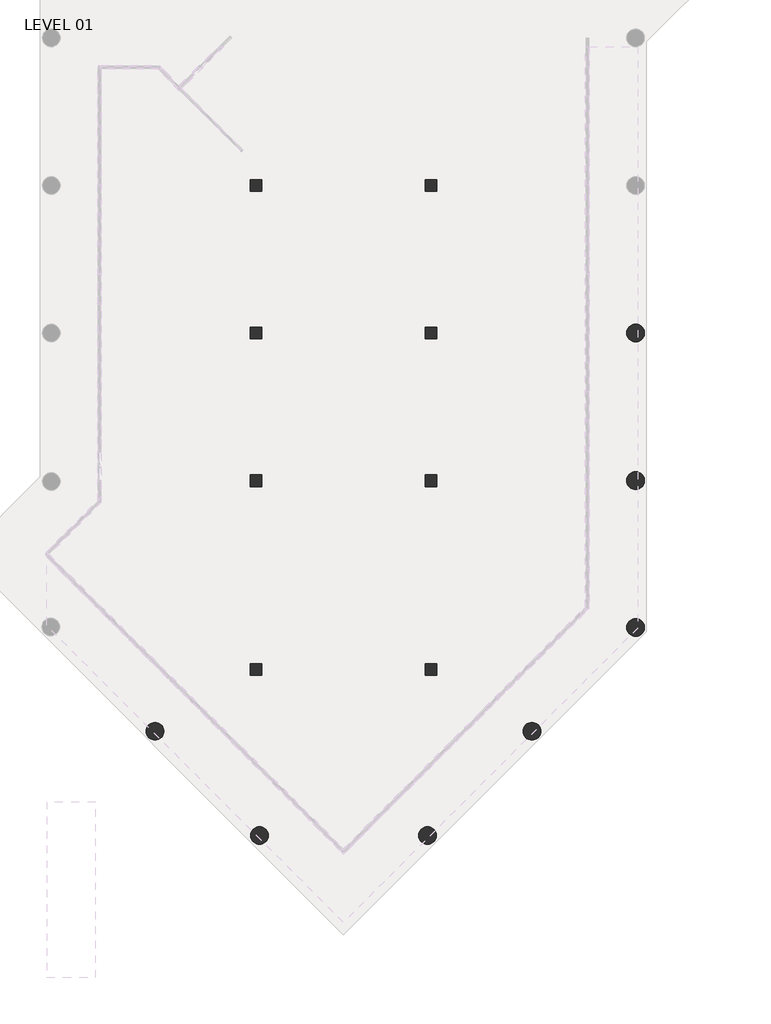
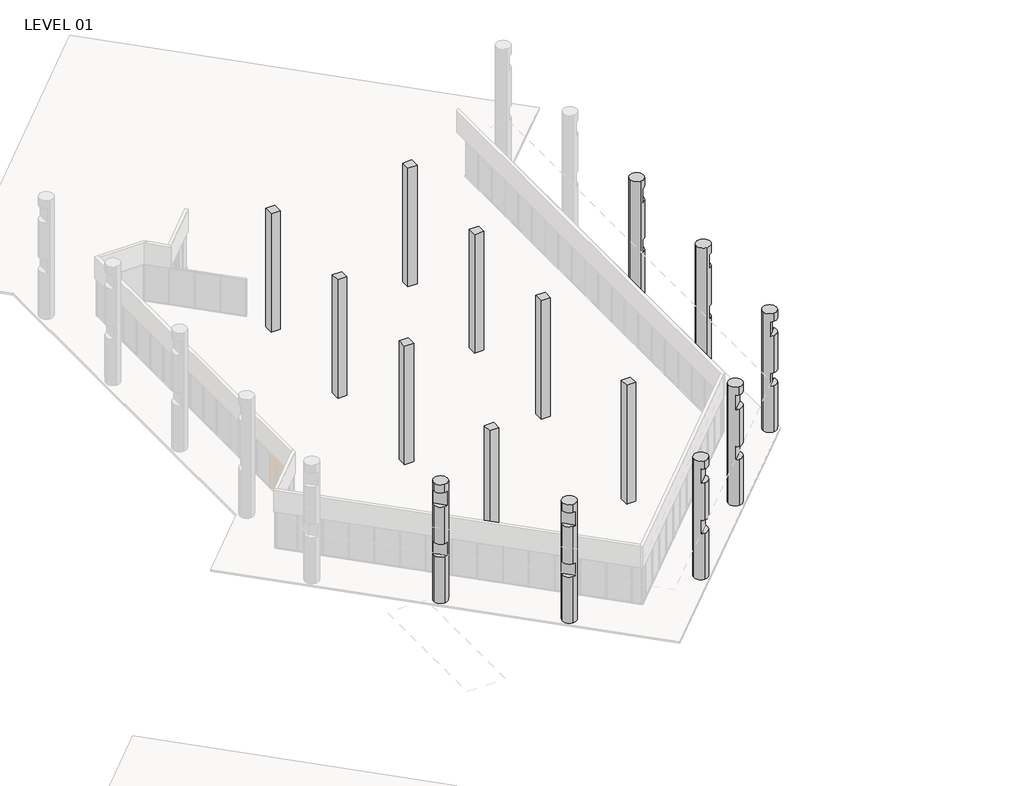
# One storey, part 21 of 24: 15 columns.
"""IFC4 building model written with IfcOpenShell, lengths in millimetres."""

from ifc_helpers import new_model, si_unit, frame, origin, place, context, project, spatial, circle_curve, transform, mapped, element, save
from ifc_brep_helpers import plane_surface, cylinder_surface, advanced_brep
from components import column_f8a5f9a6

model = new_model("IFC4")

# Units and contexts
model_context = context("Model", 3, world=origin())
ifc_project = project(units=[si_unit("LENGTHUNIT", "METRE", prefix="MILLI")], contexts=[model_context])

# Site, building, storey
site = spatial("IfcSite", under=ifc_project)
building = spatial("IfcBuilding", under=site)
storey = spatial("IfcBuildingStorey", under=building, Name="LEVEL 01", Elevation=0.0)

# Columns
placement = place(None, origin())
column_shape = column_f8a5f9a6(model_context)
element("IfcColumn", 1, ObjectType="Rectangular Column : 24\" x 24\"", at=placement, inside=storey, context=model_context, shape_type="MappedRepresentation", body=[
    mapped(column_shape, transform((81367.8847164, 36334.3675885, 0.0), x_axis=(0.0, -1.0, 0.0), y_axis=(1.0, 0.0, 0.0), z_axis=(0.0, 0.0, 1.0))),
])
element("IfcColumn", 2, ObjectType="Rectangular Column : 24\" x 24\"", at=placement, inside=storey, context=model_context, shape_type="MappedRepresentation", body=[
    mapped(column_shape, transform((72331.8347164, 36334.3675885, 0.0), x_axis=(0.0, -1.0, 0.0), y_axis=(1.0, 0.0, 0.0), z_axis=(0.0, 0.0, 1.0))),
])
element("IfcColumn", 3, ObjectType="Rectangular Column : 24\" x 24\"", at=placement, inside=storey, context=model_context, shape_type="MappedRepresentation", body=[
    mapped(column_shape, transform((81367.8847164, 46087.9675885, 0.0), x_axis=(0.0, -1.0, 0.0), y_axis=(1.0, 0.0, 0.0), z_axis=(0.0, 0.0, 1.0))),
])
element("IfcColumn", 4, ObjectType="Rectangular Column : 24\" x 24\"", at=placement, inside=storey, context=model_context, shape_type="MappedRepresentation", body=[
    mapped(column_shape, transform((81367.8847164, 53707.9675885, 0.0), x_axis=(0.0, -1.0, 0.0), y_axis=(1.0, 0.0, 0.0), z_axis=(0.0, 0.0, 1.0))),
])
element("IfcColumn", 5, ObjectType="Rectangular Column : 24\" x 24\"", at=placement, inside=storey, context=model_context, shape_type="MappedRepresentation", body=[
    mapped(column_shape, transform((81367.8847164, 61327.9675885, 0.0), x_axis=(0.0, -1.0, 0.0), y_axis=(1.0, 0.0, 0.0), z_axis=(0.0, 0.0, 1.0))),
])
element("IfcColumn", 6, ObjectType="Rectangular Column : 24\" x 24\"", at=placement, inside=storey, context=model_context, shape_type="MappedRepresentation", body=[
    mapped(column_shape, transform((72331.8347164, 61327.9675885, 0.0), x_axis=(0.0, -1.0, 0.0), y_axis=(1.0, 0.0, 0.0), z_axis=(0.0, 0.0, 1.0))),
])
element("IfcColumn", 7, ObjectType="Rectangular Column : 24\" x 24\"", at=placement, inside=storey, context=model_context, shape_type="MappedRepresentation", body=[
    mapped(column_shape, transform((72331.8347164, 53707.9675885, 0.0), x_axis=(0.0, -1.0, 0.0), y_axis=(1.0, 0.0, 0.0), z_axis=(0.0, 0.0, 1.0))),
])
element("IfcColumn", 8, ObjectType="Rectangular Column : 24\" x 24\"", at=placement, inside=storey, context=model_context, shape_type="MappedRepresentation", body=[
    mapped(column_shape, transform((72331.8347164, 46087.9675885, 0.0), x_axis=(0.0, -1.0, 0.0), y_axis=(1.0, 0.0, 0.0), z_axis=(0.0, 0.0, 1.0))),
])
element("IfcColumn", 9, ObjectType="Round Column : 36\" Diameter", at=placement, inside=storey, context=model_context, shape_type="AdvancedBrep", body=[
    advanced_brep(
    [(67123.6517654, 33609.0346375, 0.0), (67123.6517654, 32694.6346375, 0.0), (66666.4517654, 33151.8346375, 0.0), (67123.6517654, 33609.0346375, 8280.4), (67123.6517654, 32694.6346375, 8280.4), (67123.6517654, 32694.6346375, 7721.6), (67320.6886919, 32739.271564, 7721.6), (67320.6886919, 32739.271564, 6731.0), (67123.6517654, 32694.6346375, 6731.0), (67123.6517654, 32694.6346375, 4140.2), (67320.6886919, 32739.271564, 4140.2), (67320.6886919, 32739.271564, 3225.8), (67123.6517654, 32694.6346375, 3225.8), (66666.4517654, 33151.8346375, 3225.8), (66711.0886919, 33348.871564, 3225.8), (66711.0886919, 33348.871564, 4140.2), (66666.4517654, 33151.8346375, 4140.2), (66666.4517654, 33151.8346375, 6731.0), (66711.0886919, 33348.871564, 6731.0), (66711.0886919, 33348.871564, 7721.6), (66666.4517654, 33151.8346375, 7721.6), (66666.4517654, 33151.8346375, 8280.4), (66800.362545, 32828.5454171, 3225.8), (66800.362545, 32828.5454171, 6731.0), (66800.362545, 32828.5454171, 7721.6), (66800.362545, 32828.5454171, 4140.2)],
    [
        (0, 1, circle_curve(frame((67123.6517654, 33151.8346375, 0.0), z_axis=(0.0, 0.0, -1.0), x_axis=(0.0, -1.0, 0.0)), 457.2)),
        (1, 2, circle_curve(frame((67123.6517654, 33151.8346375, 0.0), z_axis=(0.0, 0.0, -1.0), x_axis=(0.0, -1.0, 0.0)), 457.2)),
        (2, 0, circle_curve(frame((67123.6517654, 33151.8346375, 0.0), z_axis=(0.0, 0.0, -1.0), x_axis=(0.0, -1.0, 0.0)), 457.2)),
        (0, 3),
        (3, 4, circle_curve(frame((67123.6517654, 33151.8346375, 8280.4), z_axis=(0.0, 0.0, -1.0), x_axis=(0.0, -1.0, 0.0)), 457.2)),
        (4, 5),
        (5, 6, circle_curve(frame((67123.6517654, 33151.8346375, 7721.6), z_axis=(0.0, 0.0, 1.0), x_axis=(0.0, -1.0, 0.0)), 457.2)),
        (6, 7),
        (7, 8, circle_curve(frame((67123.6517654, 33151.8346375, 6731.0), z_axis=(0.0, 0.0, -1.0), x_axis=(0.0, -1.0, 0.0)), 457.2)),
        (8, 9),
        (9, 10, circle_curve(frame((67123.6517654, 33151.8346375, 4140.2), z_axis=(0.0, 0.0, 1.0), x_axis=(0.0, -1.0, 0.0)), 457.2)),
        (10, 11),
        (11, 12, circle_curve(frame((67123.6517654, 33151.8346375, 3225.8), z_axis=(0.0, 0.0, -1.0), x_axis=(0.0, -1.0, 0.0)), 457.2)),
        (12, 1),
        (2, 13),
        (13, 14, circle_curve(frame((67123.6517654, 33151.8346375, 3225.8), z_axis=(0.0, 0.0, -1.0), x_axis=(0.0, -1.0, 0.0)), 457.2)),
        (14, 15),
        (15, 16, circle_curve(frame((67123.6517654, 33151.8346375, 4140.2), z_axis=(0.0, 0.0, 1.0), x_axis=(0.0, -1.0, 0.0)), 457.2)),
        (16, 17),
        (17, 18, circle_curve(frame((67123.6517654, 33151.8346375, 6731.0), z_axis=(0.0, 0.0, -1.0), x_axis=(0.0, -1.0, 0.0)), 457.2)),
        (18, 19),
        (19, 20, circle_curve(frame((67123.6517654, 33151.8346375, 7721.6), z_axis=(0.0, 0.0, 1.0), x_axis=(0.0, -1.0, 0.0)), 457.2)),
        (20, 21),
        (21, 3, circle_curve(frame((67123.6517654, 33151.8346375, 8280.4), z_axis=(0.0, 0.0, -1.0), x_axis=(0.0, -1.0, 0.0)), 457.2)),
        (12, 22, circle_curve(frame((67123.6517654, 33151.8346375, 3225.8), z_axis=(0.0, 0.0, -1.0), x_axis=(0.0, -1.0, 0.0)), 457.2)),
        (22, 13, circle_curve(frame((67123.6517654, 33151.8346375, 3225.8), z_axis=(0.0, 0.0, -1.0), x_axis=(0.0, -1.0, 0.0)), 457.2)),
        (21, 4, circle_curve(frame((67123.6517654, 33151.8346375, 8280.4), z_axis=(0.0, 0.0, 1.0), x_axis=(0.0, -1.0, 0.0)), 457.2)),
        (18, 7),
        (6, 19),
        (17, 23, circle_curve(frame((67123.6517654, 33151.8346375, 6731.0), z_axis=(0.0, 0.0, 1.0), x_axis=(0.0, -1.0, 0.0)), 457.2)),
        (23, 8, circle_curve(frame((67123.6517654, 33151.8346375, 6731.0), z_axis=(0.0, 0.0, 1.0), x_axis=(0.0, -1.0, 0.0)), 457.2)),
        (5, 24, circle_curve(frame((67123.6517654, 33151.8346375, 7721.6), z_axis=(0.0, 0.0, -1.0), x_axis=(0.0, -1.0, 0.0)), 457.2)),
        (24, 20, circle_curve(frame((67123.6517654, 33151.8346375, 7721.6), z_axis=(0.0, 0.0, -1.0), x_axis=(0.0, -1.0, 0.0)), 457.2)),
        (14, 11),
        (10, 15),
        (9, 25, circle_curve(frame((67123.6517654, 33151.8346375, 4140.2), z_axis=(0.0, 0.0, -1.0), x_axis=(0.0, -1.0, 0.0)), 457.2)),
        (25, 16, circle_curve(frame((67123.6517654, 33151.8346375, 4140.2), z_axis=(0.0, 0.0, -1.0), x_axis=(0.0, -1.0, 0.0)), 457.2)),
    ],
    [
        plane_surface(frame((67123.6517654, 32694.6346375, 0.0), z_axis=(0.0, 0.0, -1.0), x_axis=(1.0, 0.0, 0.0))),
        cylinder_surface(frame((67123.6517654, 33151.8346375, 0.0), z_axis=(0.0, 0.0, 1.0), x_axis=(0.0, -1.0, 0.0)), 457.2),
        plane_surface(frame((67123.6517654, 32694.6346375, 8280.4), z_axis=(0.0, 0.0, 1.0), x_axis=(-1.0, 0.0, 0.0))),
        plane_surface(frame((55681.9798614, 44377.9803946, 6731.0), z_axis=(-0.7071067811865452, -0.7071067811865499, 0.0), x_axis=(-0.7071067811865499, 0.7071067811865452, 0.0))),
        plane_surface(frame((57458.7034471, 42170.2045151, 6731.0), z_axis=(0.0, 0.0, 1.0000000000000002), x_axis=(0.7071067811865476, 0.7071067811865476, 0.0))),
        plane_surface(frame((76742.0966429, 22886.8113192, 7721.6), z_axis=(0.0, 0.0, -1.0000000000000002), x_axis=(0.7071067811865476, 0.7071067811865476, 0.0))),
        plane_surface(frame((57566.4665205, 42493.4937354, 3225.8), z_axis=(-0.7071067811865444, -0.7071067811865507, 0.0), x_axis=(-0.7071067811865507, 0.7071067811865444, 0.0))),
        plane_surface(frame((61196.8613981, 38432.046564, 3225.8), z_axis=(0.0, 0.0, 1.0000000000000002), x_axis=(0.7071067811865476, 0.7071067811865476, 0.0))),
        plane_surface(frame((76742.0966429, 22886.8113192, 4140.2), z_axis=(0.0, 0.0, -1.0000000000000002), x_axis=(0.7071067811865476, 0.7071067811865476, 0.0))),
    ],
    [
        (0, [[1, 2, 3]]),
        (1, [[-1, 4, 5, 6, 7, 8, 9, 10, 11, 12, 13, 14]]),
        (1, [[-3, 15, 16, 17, 18, 19, 20, 21, 22, 23, 24, -4]]),
        (1, [[-2, -14, 25, 26, -15]]),
        (2, [[-5, -24, 27]]),
        (3, [[28, -8, 29, -21]]),
        (4, [[-9, -28, -20, 30, 31]]),
        (5, [[-7, 32, 33, -22, -29]]),
        (1, [[-27, -23, -33, -32, -6]]),
        (6, [[34, -12, 35, -17]]),
        (7, [[-34, -16, -26, -25, -13]]),
        (8, [[-35, -11, 36, 37, -18]]),
        (1, [[-30, -19, -37, -36, -10, -31]]),
    ],
),
])
element("IfcColumn", 10, ObjectType="Round Column : 36\" Diameter", at=placement, inside=storey, context=model_context, shape_type="AdvancedBrep", body=[
    advanced_brep(
    [(72511.6267654, 28221.0596375, 0.0), (72511.6267654, 27306.6596375, 0.0), (72054.4267654, 27763.8596375, 0.0), (72511.6267654, 28221.0596375, 8280.4), (72511.6267654, 27306.6596375, 8280.4), (72511.6267654, 27306.6596375, 7721.6), (72708.6636919, 27351.296564, 7721.6), (72708.6636919, 27351.296564, 6731.0), (72511.6267654, 27306.6596375, 6731.0), (72511.6267654, 27306.6596375, 4140.2), (72708.6636919, 27351.296564, 4140.2), (72708.6636919, 27351.296564, 3225.8), (72511.6267654, 27306.6596375, 3225.8), (72054.4267654, 27763.8596375, 3225.8), (72099.0636919, 27960.896564, 3225.8), (72099.0636919, 27960.896564, 4140.2), (72054.4267654, 27763.8596375, 4140.2), (72054.4267654, 27763.8596375, 6731.0), (72099.0636919, 27960.896564, 6731.0), (72099.0636919, 27960.896564, 7721.6), (72054.4267654, 27763.8596375, 7721.6), (72054.4267654, 27763.8596375, 8280.4), (72188.337545, 27440.5704171, 3225.8), (72188.337545, 27440.5704171, 6731.0), (72188.337545, 27440.5704171, 7721.6), (72188.337545, 27440.5704171, 4140.2)],
    [
        (0, 1, circle_curve(frame((72511.6267654, 27763.8596375, 0.0), z_axis=(0.0, 0.0, -1.0), x_axis=(0.0, -1.0, 0.0)), 457.2)),
        (1, 2, circle_curve(frame((72511.6267654, 27763.8596375, 0.0), z_axis=(0.0, 0.0, -1.0), x_axis=(0.0, -1.0, 0.0)), 457.2)),
        (2, 0, circle_curve(frame((72511.6267654, 27763.8596375, 0.0), z_axis=(0.0, 0.0, -1.0), x_axis=(0.0, -1.0, 0.0)), 457.2)),
        (0, 3),
        (3, 4, circle_curve(frame((72511.6267654, 27763.8596375, 8280.4), z_axis=(0.0, 0.0, -1.0), x_axis=(0.0, -1.0, 0.0)), 457.2)),
        (4, 5),
        (5, 6, circle_curve(frame((72511.6267654, 27763.8596375, 7721.6), z_axis=(0.0, 0.0, 1.0), x_axis=(0.0, -1.0, 0.0)), 457.2)),
        (6, 7),
        (7, 8, circle_curve(frame((72511.6267654, 27763.8596375, 6731.0), z_axis=(0.0, 0.0, -1.0), x_axis=(0.0, -1.0, 0.0)), 457.2)),
        (8, 9),
        (9, 10, circle_curve(frame((72511.6267654, 27763.8596375, 4140.2), z_axis=(0.0, 0.0, 1.0), x_axis=(0.0, -1.0, 0.0)), 457.2)),
        (10, 11),
        (11, 12, circle_curve(frame((72511.6267654, 27763.8596375, 3225.8), z_axis=(0.0, 0.0, -1.0), x_axis=(0.0, -1.0, 0.0)), 457.2)),
        (12, 1),
        (2, 13),
        (13, 14, circle_curve(frame((72511.6267654, 27763.8596375, 3225.8), z_axis=(0.0, 0.0, -1.0), x_axis=(0.0, -1.0, 0.0)), 457.2)),
        (14, 15),
        (15, 16, circle_curve(frame((72511.6267654, 27763.8596375, 4140.2), z_axis=(0.0, 0.0, 1.0), x_axis=(0.0, -1.0, 0.0)), 457.2)),
        (16, 17),
        (17, 18, circle_curve(frame((72511.6267654, 27763.8596375, 6731.0), z_axis=(0.0, 0.0, -1.0), x_axis=(0.0, -1.0, 0.0)), 457.2)),
        (18, 19),
        (19, 20, circle_curve(frame((72511.6267654, 27763.8596375, 7721.6), z_axis=(0.0, 0.0, 1.0), x_axis=(0.0, -1.0, 0.0)), 457.2)),
        (20, 21),
        (21, 3, circle_curve(frame((72511.6267654, 27763.8596375, 8280.4), z_axis=(0.0, 0.0, -1.0), x_axis=(0.0, -1.0, 0.0)), 457.2)),
        (12, 22, circle_curve(frame((72511.6267654, 27763.8596375, 3225.8), z_axis=(0.0, 0.0, -1.0), x_axis=(0.0, -1.0, 0.0)), 457.2)),
        (22, 13, circle_curve(frame((72511.6267654, 27763.8596375, 3225.8), z_axis=(0.0, 0.0, -1.0), x_axis=(0.0, -1.0, 0.0)), 457.2)),
        (21, 4, circle_curve(frame((72511.6267654, 27763.8596375, 8280.4), z_axis=(0.0, 0.0, 1.0), x_axis=(0.0, -1.0, 0.0)), 457.2)),
        (18, 7),
        (6, 19),
        (17, 23, circle_curve(frame((72511.6267654, 27763.8596375, 6731.0), z_axis=(0.0, 0.0, 1.0), x_axis=(0.0, -1.0, 0.0)), 457.2)),
        (23, 8, circle_curve(frame((72511.6267654, 27763.8596375, 6731.0), z_axis=(0.0, 0.0, 1.0), x_axis=(0.0, -1.0, 0.0)), 457.2)),
        (5, 24, circle_curve(frame((72511.6267654, 27763.8596375, 7721.6), z_axis=(0.0, 0.0, -1.0), x_axis=(0.0, -1.0, 0.0)), 457.2)),
        (24, 20, circle_curve(frame((72511.6267654, 27763.8596375, 7721.6), z_axis=(0.0, 0.0, -1.0), x_axis=(0.0, -1.0, 0.0)), 457.2)),
        (14, 11),
        (10, 15),
        (9, 25, circle_curve(frame((72511.6267654, 27763.8596375, 4140.2), z_axis=(0.0, 0.0, -1.0), x_axis=(0.0, -1.0, 0.0)), 457.2)),
        (25, 16, circle_curve(frame((72511.6267654, 27763.8596375, 4140.2), z_axis=(0.0, 0.0, -1.0), x_axis=(0.0, -1.0, 0.0)), 457.2)),
    ],
    [
        plane_surface(frame((72511.6267654, 27306.6596375, 0.0), z_axis=(0.0, 0.0, -1.0), x_axis=(1.0, 0.0, 0.0))),
        cylinder_surface(frame((72511.6267654, 27763.8596375, 0.0), z_axis=(0.0, 0.0, 1.0), x_axis=(0.0, -1.0, 0.0)), 457.2),
        plane_surface(frame((72511.6267654, 27306.6596375, 8280.4), z_axis=(0.0, 0.0, 1.0), x_axis=(-1.0, 0.0, 0.0))),
        plane_surface(frame((55681.9798614, 44377.9803946, 6731.0), z_axis=(-0.7071067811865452, -0.7071067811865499, 0.0), x_axis=(-0.7071067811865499, 0.7071067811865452, 0.0))),
        plane_surface(frame((57458.7034471, 42170.2045151, 6731.0), z_axis=(0.0, 0.0, 1.0000000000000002), x_axis=(0.7071067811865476, 0.7071067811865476, 0.0))),
        plane_surface(frame((76742.0966429, 22886.8113192, 7721.6), z_axis=(0.0, 0.0, -1.0000000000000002), x_axis=(0.7071067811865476, 0.7071067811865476, 0.0))),
        plane_surface(frame((57566.4665205, 42493.4937354, 3225.8), z_axis=(-0.7071067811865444, -0.7071067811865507, 0.0), x_axis=(-0.7071067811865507, 0.7071067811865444, 0.0))),
        plane_surface(frame((61196.8613981, 38432.046564, 3225.8), z_axis=(0.0, 0.0, 1.0000000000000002), x_axis=(0.7071067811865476, 0.7071067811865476, 0.0))),
        plane_surface(frame((76742.0966429, 22886.8113192, 4140.2), z_axis=(0.0, 0.0, -1.0000000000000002), x_axis=(0.7071067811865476, 0.7071067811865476, 0.0))),
    ],
    [
        (0, [[1, 2, 3]]),
        (1, [[-1, 4, 5, 6, 7, 8, 9, 10, 11, 12, 13, 14]]),
        (1, [[-3, 15, 16, 17, 18, 19, 20, 21, 22, 23, 24, -4]]),
        (1, [[-2, -14, 25, 26, -15]]),
        (2, [[-5, -24, 27]]),
        (3, [[28, -8, 29, -21]]),
        (4, [[-9, -28, -20, 30, 31]]),
        (5, [[-7, 32, 33, -22, -29]]),
        (1, [[-27, -23, -33, -32, -6]]),
        (6, [[34, -12, 35, -17]]),
        (7, [[-34, -16, -26, -25, -13]]),
        (8, [[-35, -11, 36, 37, -18]]),
        (1, [[-30, -19, -37, -36, -10, -31]]),
    ],
),
])
element("IfcColumn", 11, ObjectType="Round Column : 36\" Diameter", at=placement, inside=storey, context=model_context, shape_type="AdvancedBrep", body=[
    advanced_brep(
    [(81188.0926674, 28221.0596375, 0.0), (81188.0926674, 27306.6596375, 0.0), (80730.8926674, 27763.8596375, 0.0), (81188.0926674, 28221.0596375, 8280.4), (81188.0926674, 27306.6596375, 8280.4), (81188.0926674, 27306.6596375, 7721.6), (81511.3818878, 27440.5704171, 7721.6), (81600.6557409, 27960.896564, 7721.6), (81600.6557409, 27960.896564, 6731.0), (81511.3818878, 27440.5704171, 6731.0), (81188.0926674, 27306.6596375, 6731.0), (81188.0926674, 27306.6596375, 4140.2), (81511.3818878, 27440.5704171, 4140.2), (81600.6557409, 27960.896564, 4140.2), (81600.6557409, 27960.896564, 3225.8), (81511.3818878, 27440.5704171, 3225.8), (81188.0926674, 27306.6596375, 3225.8), (80730.8926674, 27763.8596375, 8280.4), (80991.0557409, 27351.296564, 3225.8), (80991.0557409, 27351.296564, 4140.2), (80991.0557409, 27351.296564, 6731.0), (80991.0557409, 27351.296564, 7721.6)],
    [
        (0, 1, circle_curve(frame((81188.0926674, 27763.8596375, 0.0), z_axis=(0.0, 0.0, -1.0), x_axis=(0.0, -1.0, 0.0)), 457.2)),
        (1, 2, circle_curve(frame((81188.0926674, 27763.8596375, 0.0), z_axis=(0.0, 0.0, -1.0), x_axis=(0.0, -1.0, 0.0)), 457.2)),
        (2, 0, circle_curve(frame((81188.0926674, 27763.8596375, 0.0), z_axis=(0.0, 0.0, -1.0), x_axis=(0.0, -1.0, 0.0)), 457.2)),
        (0, 3),
        (3, 4, circle_curve(frame((81188.0926674, 27763.8596375, 8280.4), z_axis=(0.0, 0.0, -1.0), x_axis=(0.0, -1.0, 0.0)), 457.2)),
        (4, 5),
        (5, 6, circle_curve(frame((81188.0926674, 27763.8596375, 7721.6), z_axis=(0.0, 0.0, 1.0), x_axis=(0.0, -1.0, 0.0)), 457.2)),
        (6, 7, circle_curve(frame((81188.0926674, 27763.8596375, 7721.6), z_axis=(0.0, 0.0, 1.0), x_axis=(0.0, -1.0, 0.0)), 457.2)),
        (7, 8),
        (8, 9, circle_curve(frame((81188.0926674, 27763.8596375, 6731.0), z_axis=(0.0, 0.0, -1.0), x_axis=(0.0, -1.0, 0.0)), 457.2)),
        (9, 10, circle_curve(frame((81188.0926674, 27763.8596375, 6731.0), z_axis=(0.0, 0.0, -1.0), x_axis=(0.0, -1.0, 0.0)), 457.2)),
        (10, 11),
        (11, 12, circle_curve(frame((81188.0926674, 27763.8596375, 4140.2), z_axis=(0.0, 0.0, 1.0), x_axis=(0.0, -1.0, 0.0)), 457.2)),
        (12, 13, circle_curve(frame((81188.0926674, 27763.8596375, 4140.2), z_axis=(0.0, 0.0, 1.0), x_axis=(0.0, -1.0, 0.0)), 457.2)),
        (13, 14),
        (14, 15, circle_curve(frame((81188.0926674, 27763.8596375, 3225.8), z_axis=(0.0, 0.0, -1.0), x_axis=(0.0, -1.0, 0.0)), 457.2)),
        (15, 16, circle_curve(frame((81188.0926674, 27763.8596375, 3225.8), z_axis=(0.0, 0.0, -1.0), x_axis=(0.0, -1.0, 0.0)), 457.2)),
        (16, 1),
        (2, 17),
        (17, 3, circle_curve(frame((81188.0926674, 27763.8596375, 8280.4), z_axis=(0.0, 0.0, -1.0), x_axis=(0.0, -1.0, 0.0)), 457.2)),
        (16, 18, circle_curve(frame((81188.0926674, 27763.8596375, 3225.8), z_axis=(0.0, 0.0, -1.0), x_axis=(0.0, -1.0, 0.0)), 457.2)),
        (18, 19),
        (19, 11, circle_curve(frame((81188.0926674, 27763.8596375, 4140.2), z_axis=(0.0, 0.0, 1.0), x_axis=(0.0, -1.0, 0.0)), 457.2)),
        (10, 20, circle_curve(frame((81188.0926674, 27763.8596375, 6731.0), z_axis=(0.0, 0.0, -1.0), x_axis=(0.0, -1.0, 0.0)), 457.2)),
        (20, 21),
        (21, 5, circle_curve(frame((81188.0926674, 27763.8596375, 7721.6), z_axis=(0.0, 0.0, 1.0), x_axis=(0.0, -1.0, 0.0)), 457.2)),
        (4, 17, circle_curve(frame((81188.0926674, 27763.8596375, 8280.4), z_axis=(0.0, 0.0, -1.0), x_axis=(0.0, -1.0, 0.0)), 457.2)),
        (13, 19),
        (18, 14),
        (20, 8),
        (7, 21),
    ],
    [
        plane_surface(frame((81188.0926674, 27306.6596375, 0.0), z_axis=(0.0, 0.0, -1.0), x_axis=(1.0, 0.0, 0.0))),
        cylinder_surface(frame((81188.0926674, 27763.8596375, 0.0), z_axis=(0.0, 0.0, 1.0), x_axis=(0.0, -1.0, 0.0)), 457.2),
        plane_surface(frame((81188.0926674, 27306.6596375, 8280.4), z_axis=(0.0, 0.0, 1.0), x_axis=(-1.0, 0.0, 0.0))),
        plane_surface(frame((76562.4915205, 22922.7323437, 3225.8), z_axis=(0.7071067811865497, -0.7071067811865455, 0.0), x_axis=(-0.7071067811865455, -0.7071067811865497, 0.0))),
        plane_surface(frame((76957.6227899, 22886.8113192, 3225.8), z_axis=(0.0, 0.0, 1.0000000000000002), x_axis=(-0.7071067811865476, 0.7071067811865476, 0.0))),
        plane_surface(frame((92346.8477899, 38276.0363192, 4140.2), z_axis=(0.0, 0.0, -1.0), x_axis=(-0.7071067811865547, 0.7071067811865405, 0.0))),
        plane_surface(frame((76562.4915205, 22922.7323437, 6731.0), z_axis=(0.7071067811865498, -0.7071067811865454, 0.0), x_axis=(-0.7071067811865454, -0.7071067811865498, 0.0))),
        plane_surface(frame((76957.6227899, 22886.8113192, 6731.0), z_axis=(0.0, 0.0, 1.0), x_axis=(-0.7071067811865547, 0.7071067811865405, 0.0))),
        plane_surface(frame((92346.8477899, 38276.0363192, 7721.6), z_axis=(0.0, 0.0, -1.0000000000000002), x_axis=(-0.7071067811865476, 0.7071067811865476, 0.0))),
    ],
    [
        (0, [[1, 2, 3]]),
        (1, [[-1, 4, 5, 6, 7, 8, 9, 10, 11, 12, 13, 14, 15, 16, 17, 18]]),
        (1, [[-3, 19, 20, -4]]),
        (1, [[-2, -18, 21, 22, 23, -12, 24, 25, 26, -6, 27, -19]]),
        (2, [[-5, -20, -27]]),
        (3, [[-15, 28, -22, 29]]),
        (4, [[-17, -16, -29, -21]]),
        (5, [[-13, -23, -28, -14]]),
        (6, [[30, -9, 31, -25]]),
        (7, [[-30, -24, -11, -10]]),
        (8, [[-31, -8, -7, -26]]),
    ],
),
])
element("IfcColumn", 12, ObjectType="Round Column : 36\" Diameter", at=placement, inside=storey, context=model_context, shape_type="AdvancedBrep", body=[
    advanced_brep(
    [(86576.0676674, 33609.0346375, 0.0), (86576.0676674, 32694.6346375, 0.0), (86118.8676674, 33151.8346375, 0.0), (86576.0676674, 33609.0346375, 8280.4), (86576.0676674, 32694.6346375, 8280.4), (86576.0676674, 32694.6346375, 7721.6), (86899.3568878, 32828.5454171, 7721.6), (86988.6307409, 33348.871564, 7721.6), (86988.6307409, 33348.871564, 6731.0), (86899.3568878, 32828.5454171, 6731.0), (86576.0676674, 32694.6346375, 6731.0), (86576.0676674, 32694.6346375, 4140.2), (86899.3568878, 32828.5454171, 4140.2), (86988.6307409, 33348.871564, 4140.2), (86988.6307409, 33348.871564, 3225.8), (86899.3568878, 32828.5454171, 3225.8), (86576.0676674, 32694.6346375, 3225.8), (86118.8676674, 33151.8346375, 8280.4), (86379.0307409, 32739.271564, 3225.8), (86379.0307409, 32739.271564, 4140.2), (86379.0307409, 32739.271564, 6731.0), (86379.0307409, 32739.271564, 7721.6)],
    [
        (0, 1, circle_curve(frame((86576.0676674, 33151.8346375, 0.0), z_axis=(0.0, 0.0, -1.0), x_axis=(0.0, -1.0, 0.0)), 457.2)),
        (1, 2, circle_curve(frame((86576.0676674, 33151.8346375, 0.0), z_axis=(0.0, 0.0, -1.0), x_axis=(0.0, -1.0, 0.0)), 457.2)),
        (2, 0, circle_curve(frame((86576.0676674, 33151.8346375, 0.0), z_axis=(0.0, 0.0, -1.0), x_axis=(0.0, -1.0, 0.0)), 457.2)),
        (0, 3),
        (3, 4, circle_curve(frame((86576.0676674, 33151.8346375, 8280.4), z_axis=(0.0, 0.0, -1.0), x_axis=(0.0, -1.0, 0.0)), 457.2)),
        (4, 5),
        (5, 6, circle_curve(frame((86576.0676674, 33151.8346375, 7721.6), z_axis=(0.0, 0.0, 1.0), x_axis=(0.0, -1.0, 0.0)), 457.2)),
        (6, 7, circle_curve(frame((86576.0676674, 33151.8346375, 7721.6), z_axis=(0.0, 0.0, 1.0), x_axis=(0.0, -1.0, 0.0)), 457.2)),
        (7, 8),
        (8, 9, circle_curve(frame((86576.0676674, 33151.8346375, 6731.0), z_axis=(0.0, 0.0, -1.0), x_axis=(0.0, -1.0, 0.0)), 457.2)),
        (9, 10, circle_curve(frame((86576.0676674, 33151.8346375, 6731.0), z_axis=(0.0, 0.0, -1.0), x_axis=(0.0, -1.0, 0.0)), 457.2)),
        (10, 11),
        (11, 12, circle_curve(frame((86576.0676674, 33151.8346375, 4140.2), z_axis=(0.0, 0.0, 1.0), x_axis=(0.0, -1.0, 0.0)), 457.2)),
        (12, 13, circle_curve(frame((86576.0676674, 33151.8346375, 4140.2), z_axis=(0.0, 0.0, 1.0), x_axis=(0.0, -1.0, 0.0)), 457.2)),
        (13, 14),
        (14, 15, circle_curve(frame((86576.0676674, 33151.8346375, 3225.8), z_axis=(0.0, 0.0, -1.0), x_axis=(0.0, -1.0, 0.0)), 457.2)),
        (15, 16, circle_curve(frame((86576.0676674, 33151.8346375, 3225.8), z_axis=(0.0, 0.0, -1.0), x_axis=(0.0, -1.0, 0.0)), 457.2)),
        (16, 1),
        (2, 17),
        (17, 3, circle_curve(frame((86576.0676674, 33151.8346375, 8280.4), z_axis=(0.0, 0.0, -1.0), x_axis=(0.0, -1.0, 0.0)), 457.2)),
        (16, 18, circle_curve(frame((86576.0676674, 33151.8346375, 3225.8), z_axis=(0.0, 0.0, -1.0), x_axis=(0.0, -1.0, 0.0)), 457.2)),
        (18, 19),
        (19, 11, circle_curve(frame((86576.0676674, 33151.8346375, 4140.2), z_axis=(0.0, 0.0, 1.0), x_axis=(0.0, -1.0, 0.0)), 457.2)),
        (10, 20, circle_curve(frame((86576.0676674, 33151.8346375, 6731.0), z_axis=(0.0, 0.0, -1.0), x_axis=(0.0, -1.0, 0.0)), 457.2)),
        (20, 21),
        (21, 5, circle_curve(frame((86576.0676674, 33151.8346375, 7721.6), z_axis=(0.0, 0.0, 1.0), x_axis=(0.0, -1.0, 0.0)), 457.2)),
        (4, 17, circle_curve(frame((86576.0676674, 33151.8346375, 8280.4), z_axis=(0.0, 0.0, -1.0), x_axis=(0.0, -1.0, 0.0)), 457.2)),
        (13, 19),
        (18, 14),
        (20, 8),
        (7, 21),
    ],
    [
        plane_surface(frame((86576.0676674, 32694.6346375, 0.0), z_axis=(0.0, 0.0, -1.0), x_axis=(1.0, 0.0, 0.0))),
        cylinder_surface(frame((86576.0676674, 33151.8346375, 0.0), z_axis=(0.0, 0.0, 1.0), x_axis=(0.0, -1.0, 0.0)), 457.2),
        plane_surface(frame((86576.0676674, 32694.6346375, 8280.4), z_axis=(0.0, 0.0, 1.0), x_axis=(-1.0, 0.0, 0.0))),
        plane_surface(frame((76562.4915205, 22922.7323437, 3225.8), z_axis=(0.7071067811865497, -0.7071067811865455, 0.0), x_axis=(-0.7071067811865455, -0.7071067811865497, 0.0))),
        plane_surface(frame((76957.6227899, 22886.8113192, 3225.8), z_axis=(0.0, 0.0, 1.0000000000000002), x_axis=(-0.7071067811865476, 0.7071067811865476, 0.0))),
        plane_surface(frame((92346.8477899, 38276.0363192, 4140.2), z_axis=(0.0, 0.0, -1.0), x_axis=(-0.7071067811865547, 0.7071067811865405, 0.0))),
        plane_surface(frame((76562.4915205, 22922.7323437, 6731.0), z_axis=(0.7071067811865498, -0.7071067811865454, 0.0), x_axis=(-0.7071067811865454, -0.7071067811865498, 0.0))),
        plane_surface(frame((76957.6227899, 22886.8113192, 6731.0), z_axis=(0.0, 0.0, 1.0), x_axis=(-0.7071067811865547, 0.7071067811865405, 0.0))),
        plane_surface(frame((92346.8477899, 38276.0363192, 7721.6), z_axis=(0.0, 0.0, -1.0000000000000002), x_axis=(-0.7071067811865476, 0.7071067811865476, 0.0))),
    ],
    [
        (0, [[1, 2, 3]]),
        (1, [[-1, 4, 5, 6, 7, 8, 9, 10, 11, 12, 13, 14, 15, 16, 17, 18]]),
        (1, [[-3, 19, 20, -4]]),
        (1, [[-2, -18, 21, 22, 23, -12, 24, 25, 26, -6, 27, -19]]),
        (2, [[-5, -20, -27]]),
        (3, [[-15, 28, -22, 29]]),
        (4, [[-17, -16, -29, -21]]),
        (5, [[-13, -23, -28, -14]]),
        (6, [[30, -9, 31, -25]]),
        (7, [[-30, -24, -11, -10]]),
        (8, [[-31, -8, -7, -26]]),
    ],
),
])
element("IfcColumn", 13, ObjectType="Round Column : 36\" Diameter", at=placement, inside=storey, context=model_context, shape_type="AdvancedBrep", body=[
    advanced_brep(
    [(91934.2847164, 38967.2516865, 0.0), (91934.2847164, 38052.8516865, 0.0), (91477.0847164, 38510.0516865, 0.0), (91934.2847164, 38967.2516865, 8280.4), (91934.2847164, 38052.8516865, 8280.4), (91934.2847164, 38052.8516865, 7721.6), (92257.5739368, 38186.7624661, 7721.6), (92391.4847164, 38510.0516865, 7721.6), (92346.8477899, 38707.088613, 7721.6), (92086.6847164, 38941.1039803, 7721.6), (92086.6847164, 38941.1039803, 6731.0), (92346.8477899, 38707.088613, 6731.0), (92391.4847164, 38510.0516865, 6731.0), (92257.5739368, 38186.7624661, 6731.0), (91934.2847164, 38052.8516865, 6731.0), (91934.2847164, 38052.8516865, 4140.2), (92257.5739368, 38186.7624661, 4140.2), (92391.4847164, 38510.0516865, 4140.2), (92346.8477899, 38707.088613, 4140.2), (92086.6847164, 38941.1039803, 4140.2), (92086.6847164, 38941.1039803, 3225.8), (92346.8477899, 38707.088613, 3225.8), (92391.4847164, 38510.0516865, 3225.8), (92257.5739368, 38186.7624661, 3225.8), (91934.2847164, 38052.8516865, 3225.8), (91477.0847164, 38510.0516865, 8280.4), (91737.2477899, 38097.488613, 3225.8), (91737.2477899, 38097.488613, 4140.2), (91737.2477899, 38097.488613, 6731.0), (91737.2477899, 38097.488613, 7721.6), (92086.6847164, 38446.9255396, 3225.8), (92086.6847164, 38446.9255396, 4140.2), (92086.6847164, 38446.9255396, 6731.0), (92086.6847164, 38446.9255396, 7721.6)],
    [
        (0, 1, circle_curve(frame((91934.2847164, 38510.0516865, 0.0), z_axis=(0.0, 0.0, -1.0), x_axis=(0.0, -1.0, 0.0)), 457.2)),
        (1, 2, circle_curve(frame((91934.2847164, 38510.0516865, 0.0), z_axis=(0.0, 0.0, -1.0), x_axis=(0.0, -1.0, 0.0)), 457.2)),
        (2, 0, circle_curve(frame((91934.2847164, 38510.0516865, 0.0), z_axis=(0.0, 0.0, -1.0), x_axis=(0.0, -1.0, 0.0)), 457.2)),
        (0, 3),
        (3, 4, circle_curve(frame((91934.2847164, 38510.0516865, 8280.4), z_axis=(0.0, 0.0, -1.0), x_axis=(0.0, -1.0, 0.0)), 457.2)),
        (4, 5),
        (5, 6, circle_curve(frame((91934.2847164, 38510.0516865, 7721.6), z_axis=(0.0, 0.0, 1.0), x_axis=(0.0, -1.0, 0.0)), 457.2)),
        (6, 7, circle_curve(frame((91934.2847164, 38510.0516865, 7721.6), z_axis=(0.0, 0.0, 1.0), x_axis=(0.0, -1.0, 0.0)), 457.2)),
        (7, 8, circle_curve(frame((91934.2847164, 38510.0516865, 7721.6), z_axis=(0.0, 0.0, 1.0), x_axis=(0.0, -1.0, 0.0)), 457.2)),
        (8, 9, circle_curve(frame((91934.2847164, 38510.0516865, 7721.6), z_axis=(0.0, 0.0, 1.0), x_axis=(0.0, -1.0, 0.0)), 457.2)),
        (9, 10),
        (10, 11, circle_curve(frame((91934.2847164, 38510.0516865, 6731.0), z_axis=(0.0, 0.0, -1.0), x_axis=(0.0, -1.0, 0.0)), 457.2)),
        (11, 12, circle_curve(frame((91934.2847164, 38510.0516865, 6731.0), z_axis=(0.0, 0.0, -1.0), x_axis=(0.0, -1.0, 0.0)), 457.2)),
        (12, 13, circle_curve(frame((91934.2847164, 38510.0516865, 6731.0), z_axis=(0.0, 0.0, -1.0), x_axis=(0.0, -1.0, 0.0)), 457.2)),
        (13, 14, circle_curve(frame((91934.2847164, 38510.0516865, 6731.0), z_axis=(0.0, 0.0, -1.0), x_axis=(0.0, -1.0, 0.0)), 457.2)),
        (14, 15),
        (15, 16, circle_curve(frame((91934.2847164, 38510.0516865, 4140.2), z_axis=(0.0, 0.0, 1.0), x_axis=(0.0, -1.0, 0.0)), 457.2)),
        (16, 17, circle_curve(frame((91934.2847164, 38510.0516865, 4140.2), z_axis=(0.0, 0.0, 1.0), x_axis=(0.0, -1.0, 0.0)), 457.2)),
        (17, 18, circle_curve(frame((91934.2847164, 38510.0516865, 4140.2), z_axis=(0.0, 0.0, 1.0), x_axis=(0.0, -1.0, 0.0)), 457.2)),
        (18, 19, circle_curve(frame((91934.2847164, 38510.0516865, 4140.2), z_axis=(0.0, 0.0, 1.0), x_axis=(0.0, -1.0, 0.0)), 457.2)),
        (19, 20),
        (20, 21, circle_curve(frame((91934.2847164, 38510.0516865, 3225.8), z_axis=(0.0, 0.0, -1.0), x_axis=(0.0, -1.0, 0.0)), 457.2)),
        (21, 22, circle_curve(frame((91934.2847164, 38510.0516865, 3225.8), z_axis=(0.0, 0.0, -1.0), x_axis=(0.0, -1.0, 0.0)), 457.2)),
        (22, 23, circle_curve(frame((91934.2847164, 38510.0516865, 3225.8), z_axis=(0.0, 0.0, -1.0), x_axis=(0.0, -1.0, 0.0)), 457.2)),
        (23, 24, circle_curve(frame((91934.2847164, 38510.0516865, 3225.8), z_axis=(0.0, 0.0, -1.0), x_axis=(0.0, -1.0, 0.0)), 457.2)),
        (24, 1),
        (2, 25),
        (25, 3, circle_curve(frame((91934.2847164, 38510.0516865, 8280.4), z_axis=(0.0, 0.0, -1.0), x_axis=(0.0, -1.0, 0.0)), 457.2)),
        (24, 26, circle_curve(frame((91934.2847164, 38510.0516865, 3225.8), z_axis=(0.0, 0.0, -1.0), x_axis=(0.0, -1.0, 0.0)), 457.2)),
        (26, 27),
        (27, 15, circle_curve(frame((91934.2847164, 38510.0516865, 4140.2), z_axis=(0.0, 0.0, 1.0), x_axis=(0.0, -1.0, 0.0)), 457.2)),
        (14, 28, circle_curve(frame((91934.2847164, 38510.0516865, 6731.0), z_axis=(0.0, 0.0, -1.0), x_axis=(0.0, -1.0, 0.0)), 457.2)),
        (28, 29),
        (29, 5, circle_curve(frame((91934.2847164, 38510.0516865, 7721.6), z_axis=(0.0, 0.0, 1.0), x_axis=(0.0, -1.0, 0.0)), 457.2)),
        (4, 25, circle_curve(frame((91934.2847164, 38510.0516865, 8280.4), z_axis=(0.0, 0.0, -1.0), x_axis=(0.0, -1.0, 0.0)), 457.2)),
        (26, 30),
        (30, 31),
        (31, 27),
        (21, 30),
        (31, 18),
        (30, 20),
        (19, 31),
        (28, 32),
        (32, 33),
        (33, 29),
        (11, 32),
        (33, 8),
        (32, 10),
        (9, 33),
    ],
    [
        plane_surface(frame((91934.2847164, 38052.8516865, 0.0), z_axis=(0.0, 0.0, -1.0), x_axis=(1.0, 0.0, 0.0))),
        cylinder_surface(frame((91934.2847164, 38510.0516865, 0.0), z_axis=(0.0, 0.0, 1.0), x_axis=(0.0, -1.0, 0.0)), 457.2),
        plane_surface(frame((91934.2847164, 38052.8516865, 8280.4), z_axis=(0.0, 0.0, 1.0), x_axis=(-1.0, 0.0, 0.0))),
        plane_surface(frame((76562.4915205, 22922.7323437, 3225.8), z_axis=(0.7071067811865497, -0.7071067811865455, 0.0), x_axis=(-0.7071067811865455, -0.7071067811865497, 0.0))),
        plane_surface(frame((76957.6227899, 22886.8113192, 3225.8), z_axis=(0.0, 0.0, 1.0000000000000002), x_axis=(-0.7071067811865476, 0.7071067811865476, 0.0))),
        plane_surface(frame((92346.8477899, 38276.0363192, 4140.2), z_axis=(0.0, 0.0, -1.0), x_axis=(-0.7071067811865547, 0.7071067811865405, 0.0))),
        plane_surface(frame((92086.6847164, 38320.6732457, 3225.8), z_axis=(1.0, 0.0, 0.0), x_axis=(0.0, -1.0, 0.0))),
        plane_surface(frame((92391.4847164, 38383.7993926, 3225.8), z_axis=(0.0, 0.0, 1.0), x_axis=(-1.0, 0.0, 0.0))),
        plane_surface(frame((92391.4847164, 68863.7993926, 4140.2), z_axis=(0.0, 0.0, -1.0), x_axis=(-1.0, 0.0, 0.0))),
        plane_surface(frame((76562.4915205, 22922.7323437, 6731.0), z_axis=(0.7071067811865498, -0.7071067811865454, 0.0), x_axis=(-0.7071067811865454, -0.7071067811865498, 0.0))),
        plane_surface(frame((76957.6227899, 22886.8113192, 6731.0), z_axis=(0.0, 0.0, 1.0), x_axis=(-0.7071067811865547, 0.7071067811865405, 0.0))),
        plane_surface(frame((92346.8477899, 38276.0363192, 7721.6), z_axis=(0.0, 0.0, -1.0000000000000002), x_axis=(-0.7071067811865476, 0.7071067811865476, 0.0))),
        plane_surface(frame((92086.6847164, 38320.6732457, 6731.0), z_axis=(1.0, 0.0, 0.0), x_axis=(0.0, -1.0, 0.0))),
        plane_surface(frame((92391.4847164, 38383.7993926, 6731.0), z_axis=(0.0, 0.0, 1.0), x_axis=(-1.0, 0.0, 0.0))),
        plane_surface(frame((92391.4847164, 68863.7993926, 7721.6), z_axis=(0.0, 0.0, -1.0), x_axis=(-1.0, 0.0, 0.0))),
    ],
    [
        (0, [[1, 2, 3]]),
        (1, [[-1, 4, 5, 6, 7, 8, 9, 10, 11, 12, 13, 14, 15, 16, 17, 18, 19, 20, 21, 22, 23, 24, 25, 26]]),
        (1, [[-3, 27, 28, -4]]),
        (1, [[-2, -26, 29, 30, 31, -16, 32, 33, 34, -6, 35, -27]]),
        (2, [[-5, -28, -35]]),
        (3, [[-30, 36, 37, 38]]),
        (4, [[-25, -24, -23, 39, -36, -29]]),
        (5, [[-17, -31, -38, 40, -19, -18]]),
        (6, [[41, -21, 42, -37]]),
        (7, [[-22, -41, -39]]),
        (8, [[-20, -40, -42]]),
        (9, [[-33, 43, 44, 45]]),
        (10, [[-15, -14, -13, 46, -43, -32]]),
        (11, [[-7, -34, -45, 47, -9, -8]]),
        (12, [[48, -11, 49, -44]]),
        (13, [[-48, -46, -12]]),
        (14, [[-49, -10, -47]]),
    ],
),
])
element("IfcColumn", 14, ObjectType="Round Column : 36\" Diameter", at=placement, inside=storey, context=model_context, shape_type="AdvancedBrep", body=[
    advanced_brep(
    [(91934.2847164, 46545.1675885, 0.0), (91934.2847164, 45630.7675885, 0.0), (91477.0847164, 46087.9675885, 0.0), (91934.2847164, 46545.1675885, 8280.4), (91934.2847164, 45630.7675885, 8280.4), (92086.6847164, 45656.9152947, 3225.8), (92086.6847164, 45656.9152947, 4140.2), (92391.4847164, 46087.9675885, 4140.2), (92086.6847164, 46519.0198823, 4140.2), (92086.6847164, 46519.0198823, 3225.8), (92391.4847164, 46087.9675885, 3225.8), (92086.6847164, 45656.9152947, 6731.0), (92086.6847164, 45656.9152947, 7721.6), (92391.4847164, 46087.9675885, 7721.6), (92086.6847164, 46519.0198823, 7721.6), (92086.6847164, 46519.0198823, 6731.0), (92391.4847164, 46087.9675885, 6731.0), (91477.0847164, 46087.9675885, 8280.4)],
    [
        (0, 1, circle_curve(frame((91934.2847164, 46087.9675885, 0.0), z_axis=(0.0, 0.0, -1.0), x_axis=(0.0, -1.0, 0.0)), 457.2)),
        (1, 2, circle_curve(frame((91934.2847164, 46087.9675885, 0.0), z_axis=(0.0, 0.0, -1.0), x_axis=(0.0, -1.0, 0.0)), 457.2)),
        (2, 0, circle_curve(frame((91934.2847164, 46087.9675885, 0.0), z_axis=(0.0, 0.0, -1.0), x_axis=(0.0, -1.0, 0.0)), 457.2)),
        (0, 3),
        (3, 4, circle_curve(frame((91934.2847164, 46087.9675885, 8280.4), z_axis=(0.0, 0.0, -1.0), x_axis=(0.0, -1.0, 0.0)), 457.2)),
        (4, 1),
        (5, 6),
        (6, 7, circle_curve(frame((91934.2847164, 46087.9675885, 4140.2), z_axis=(0.0, 0.0, 1.0), x_axis=(0.0, -1.0, 0.0)), 457.2)),
        (7, 8, circle_curve(frame((91934.2847164, 46087.9675885, 4140.2), z_axis=(0.0, 0.0, 1.0), x_axis=(0.0, -1.0, 0.0)), 457.2)),
        (8, 9),
        (9, 10, circle_curve(frame((91934.2847164, 46087.9675885, 3225.8), z_axis=(0.0, 0.0, -1.0), x_axis=(0.0, -1.0, 0.0)), 457.2)),
        (10, 5, circle_curve(frame((91934.2847164, 46087.9675885, 3225.8), z_axis=(0.0, 0.0, -1.0), x_axis=(0.0, -1.0, 0.0)), 457.2)),
        (11, 12),
        (12, 13, circle_curve(frame((91934.2847164, 46087.9675885, 7721.6), z_axis=(0.0, 0.0, 1.0), x_axis=(0.0, -1.0, 0.0)), 457.2)),
        (13, 14, circle_curve(frame((91934.2847164, 46087.9675885, 7721.6), z_axis=(0.0, 0.0, 1.0), x_axis=(0.0, -1.0, 0.0)), 457.2)),
        (14, 15),
        (15, 16, circle_curve(frame((91934.2847164, 46087.9675885, 6731.0), z_axis=(0.0, 0.0, -1.0), x_axis=(0.0, -1.0, 0.0)), 457.2)),
        (16, 11, circle_curve(frame((91934.2847164, 46087.9675885, 6731.0), z_axis=(0.0, 0.0, -1.0), x_axis=(0.0, -1.0, 0.0)), 457.2)),
        (2, 17),
        (17, 3, circle_curve(frame((91934.2847164, 46087.9675885, 8280.4), z_axis=(0.0, 0.0, -1.0), x_axis=(0.0, -1.0, 0.0)), 457.2)),
        (4, 17, circle_curve(frame((91934.2847164, 46087.9675885, 8280.4), z_axis=(0.0, 0.0, -1.0), x_axis=(0.0, -1.0, 0.0)), 457.2)),
        (5, 9),
        (8, 6),
        (11, 15),
        (14, 12),
    ],
    [
        plane_surface(frame((91934.2847164, 45630.7675885, 0.0), z_axis=(0.0, 0.0, -1.0), x_axis=(1.0, 0.0, 0.0))),
        cylinder_surface(frame((91934.2847164, 46087.9675885, 0.0), z_axis=(0.0, 0.0, 1.0), x_axis=(0.0, -1.0, 0.0)), 457.2),
        plane_surface(frame((91934.2847164, 45630.7675885, 8280.4), z_axis=(0.0, 0.0, 1.0), x_axis=(-1.0, 0.0, 0.0))),
        plane_surface(frame((92086.6847164, 38320.6732457, 3225.8), z_axis=(1.0, 0.0, 0.0), x_axis=(0.0, -1.0, 0.0))),
        plane_surface(frame((92391.4847164, 38383.7993926, 3225.8), z_axis=(0.0, 0.0, 1.0), x_axis=(-1.0, 0.0, 0.0))),
        plane_surface(frame((92391.4847164, 68863.7993926, 4140.2), z_axis=(0.0, 0.0, -1.0), x_axis=(-1.0, 0.0, 0.0))),
        plane_surface(frame((92086.6847164, 38320.6732457, 6731.0), z_axis=(1.0, 0.0, 0.0), x_axis=(0.0, -1.0, 0.0))),
        plane_surface(frame((92391.4847164, 38383.7993926, 6731.0), z_axis=(0.0, 0.0, 1.0), x_axis=(-1.0, 0.0, 0.0))),
        plane_surface(frame((92391.4847164, 68863.7993926, 7721.6), z_axis=(0.0, 0.0, -1.0), x_axis=(-1.0, 0.0, 0.0))),
    ],
    [
        (0, [[1, 2, 3]]),
        (1, [[-1, 4, 5, 6], [7, 8, 9, 10, 11, 12], [13, 14, 15, 16, 17, 18]]),
        (1, [[-3, 19, 20, -4]]),
        (1, [[-2, -6, 21, -19]]),
        (2, [[-5, -20, -21]]),
        (3, [[-7, 22, -10, 23]]),
        (4, [[-12, -11, -22]]),
        (5, [[-9, -8, -23]]),
        (6, [[24, -16, 25, -13]]),
        (7, [[-24, -18, -17]]),
        (8, [[-25, -15, -14]]),
    ],
),
])
element("IfcColumn", 15, ObjectType="Round Column : 36\" Diameter", at=placement, inside=storey, context=model_context, shape_type="AdvancedBrep", body=[
    advanced_brep(
    [(91934.2847164, 54165.1675885, 0.0), (91934.2847164, 53250.7675885, 0.0), (91477.0847164, 53707.9675885, 0.0), (91934.2847164, 54165.1675885, 8280.4), (91934.2847164, 53250.7675885, 8280.4), (92086.6847164, 53276.9152947, 3225.8), (92086.6847164, 53276.9152947, 4140.2), (92391.4847164, 53707.9675885, 4140.2), (92086.6847164, 54139.0198823, 4140.2), (92086.6847164, 54139.0198823, 3225.8), (92391.4847164, 53707.9675885, 3225.8), (92086.6847164, 53276.9152947, 6731.0), (92086.6847164, 53276.9152947, 7721.6), (92391.4847164, 53707.9675885, 7721.6), (92086.6847164, 54139.0198823, 7721.6), (92086.6847164, 54139.0198823, 6731.0), (92391.4847164, 53707.9675885, 6731.0), (91477.0847164, 53707.9675885, 8280.4)],
    [
        (0, 1, circle_curve(frame((91934.2847164, 53707.9675885, 0.0), z_axis=(0.0, 0.0, -1.0), x_axis=(0.0, -1.0, 0.0)), 457.2)),
        (1, 2, circle_curve(frame((91934.2847164, 53707.9675885, 0.0), z_axis=(0.0, 0.0, -1.0), x_axis=(0.0, -1.0, 0.0)), 457.2)),
        (2, 0, circle_curve(frame((91934.2847164, 53707.9675885, 0.0), z_axis=(0.0, 0.0, -1.0), x_axis=(0.0, -1.0, 0.0)), 457.2)),
        (0, 3),
        (3, 4, circle_curve(frame((91934.2847164, 53707.9675885, 8280.4), z_axis=(0.0, 0.0, -1.0), x_axis=(0.0, -1.0, 0.0)), 457.2)),
        (4, 1),
        (5, 6),
        (6, 7, circle_curve(frame((91934.2847164, 53707.9675885, 4140.2), z_axis=(0.0, 0.0, 1.0), x_axis=(0.0, -1.0, 0.0)), 457.2)),
        (7, 8, circle_curve(frame((91934.2847164, 53707.9675885, 4140.2), z_axis=(0.0, 0.0, 1.0), x_axis=(0.0, -1.0, 0.0)), 457.2)),
        (8, 9),
        (9, 10, circle_curve(frame((91934.2847164, 53707.9675885, 3225.8), z_axis=(0.0, 0.0, -1.0), x_axis=(0.0, -1.0, 0.0)), 457.2)),
        (10, 5, circle_curve(frame((91934.2847164, 53707.9675885, 3225.8), z_axis=(0.0, 0.0, -1.0), x_axis=(0.0, -1.0, 0.0)), 457.2)),
        (11, 12),
        (12, 13, circle_curve(frame((91934.2847164, 53707.9675885, 7721.6), z_axis=(0.0, 0.0, 1.0), x_axis=(0.0, -1.0, 0.0)), 457.2)),
        (13, 14, circle_curve(frame((91934.2847164, 53707.9675885, 7721.6), z_axis=(0.0, 0.0, 1.0), x_axis=(0.0, -1.0, 0.0)), 457.2)),
        (14, 15),
        (15, 16, circle_curve(frame((91934.2847164, 53707.9675885, 6731.0), z_axis=(0.0, 0.0, -1.0), x_axis=(0.0, -1.0, 0.0)), 457.2)),
        (16, 11, circle_curve(frame((91934.2847164, 53707.9675885, 6731.0), z_axis=(0.0, 0.0, -1.0), x_axis=(0.0, -1.0, 0.0)), 457.2)),
        (2, 17),
        (17, 3, circle_curve(frame((91934.2847164, 53707.9675885, 8280.4), z_axis=(0.0, 0.0, -1.0), x_axis=(0.0, -1.0, 0.0)), 457.2)),
        (4, 17, circle_curve(frame((91934.2847164, 53707.9675885, 8280.4), z_axis=(0.0, 0.0, -1.0), x_axis=(0.0, -1.0, 0.0)), 457.2)),
        (5, 9),
        (8, 6),
        (11, 15),
        (14, 12),
    ],
    [
        plane_surface(frame((91934.2847164, 53250.7675885, 0.0), z_axis=(0.0, 0.0, -1.0), x_axis=(1.0, 0.0, 0.0))),
        cylinder_surface(frame((91934.2847164, 53707.9675885, 0.0), z_axis=(0.0, 0.0, 1.0), x_axis=(0.0, -1.0, 0.0)), 457.2),
        plane_surface(frame((91934.2847164, 53250.7675885, 8280.4), z_axis=(0.0, 0.0, 1.0), x_axis=(-1.0, 0.0, 0.0))),
        plane_surface(frame((92086.6847164, 38320.6732457, 3225.8), z_axis=(1.0, 0.0, 0.0), x_axis=(0.0, -1.0, 0.0))),
        plane_surface(frame((92391.4847164, 38383.7993926, 3225.8), z_axis=(0.0, 0.0, 1.0), x_axis=(-1.0, 0.0, 0.0))),
        plane_surface(frame((92391.4847164, 68863.7993926, 4140.2), z_axis=(0.0, 0.0, -1.0), x_axis=(-1.0, 0.0, 0.0))),
        plane_surface(frame((92086.6847164, 38320.6732457, 6731.0), z_axis=(1.0, 0.0, 0.0), x_axis=(0.0, -1.0, 0.0))),
        plane_surface(frame((92391.4847164, 38383.7993926, 6731.0), z_axis=(0.0, 0.0, 1.0), x_axis=(-1.0, 0.0, 0.0))),
        plane_surface(frame((92391.4847164, 68863.7993926, 7721.6), z_axis=(0.0, 0.0, -1.0), x_axis=(-1.0, 0.0, 0.0))),
    ],
    [
        (0, [[1, 2, 3]]),
        (1, [[-1, 4, 5, 6], [7, 8, 9, 10, 11, 12], [13, 14, 15, 16, 17, 18]]),
        (1, [[-3, 19, 20, -4]]),
        (1, [[-2, -6, 21, -19]]),
        (2, [[-5, -20, -21]]),
        (3, [[-7, 22, -10, 23]]),
        (4, [[-12, -11, -22]]),
        (5, [[-9, -8, -23]]),
        (6, [[24, -16, 25, -13]]),
        (7, [[-24, -18, -17]]),
        (8, [[-25, -15, -14]]),
    ],
),
])

save(model, "model.ifc")
